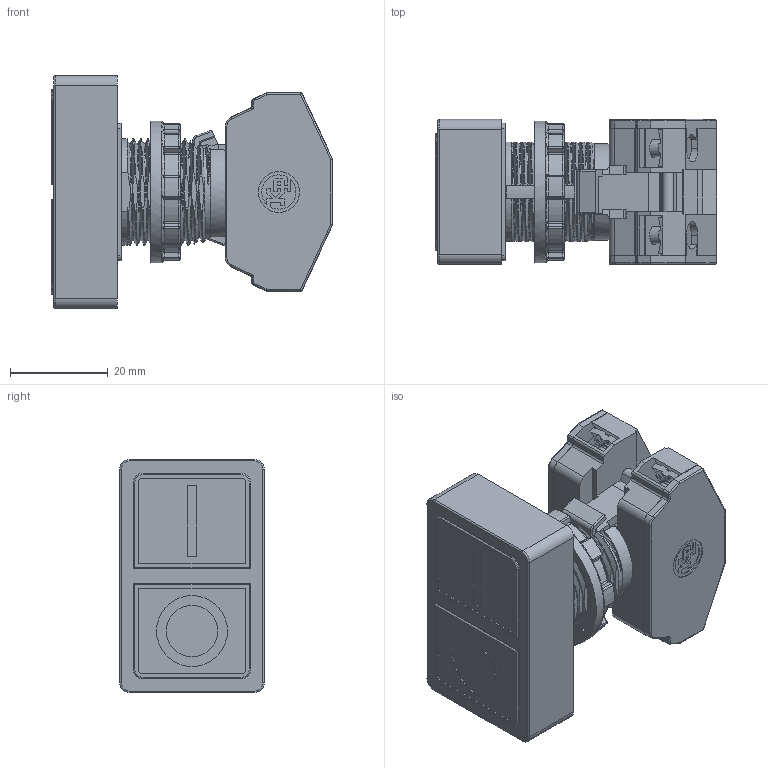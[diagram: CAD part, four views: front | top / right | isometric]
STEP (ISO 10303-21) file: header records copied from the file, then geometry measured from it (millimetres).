
FILE_DESCRIPTION(('Botao Compacto Duplo Quadrado 22 Gravacao ISO 1NA+1NF ou 2NA ou 2NF'),'2;1');
FILE_NAME('K:\Workfolder\Bibl\3DWeb\Serie\C9\kp_c9_c9dg_2Cont_step.stp','2011-04-02T15:00:38',('DIE'),('KAP'),'Autodesk Inventor 2011','Autodesk Inventor 2011','Direitos reservados. Proibido reproducao, cedencia ou revelacao de conteudo a terceiros, salvo com autorizacao. ');
FILE_SCHEMA(('AUTOMOTIVE_DESIGN { 1 0 10303 214 1 1 1 1 }'));
Length unit declared in the file: millimetre
Products named in the file (3): C9DG_2Cont; C9DG; C9AB_2Cont
Assembly tree (2 placements, depth 2):
  C9DG_2Cont
    C9DG
    C9AB_2Cont
Bounding box: 57.5 x 29.6 x 47.6 mm (x, y, z)
Volume: 42977.8 mm3; surface area: 18997.6 mm2
Topology: 3 solids, 9 shells, 1747 faces, 4779 edges, 2983 vertices
Faces by surface type: plane 949, cylinder 504, torus 127, bspline 86, sphere 49, cone 32
Full cylindrical faces by diameter (mm): 2.8 x4, 3 x4, 3.1 x4, 3.3 x4, 3.5 x4, 3.7 x4, 8.4 x1, 10.5 x1, 14.5 x1, 22.2 x1, 22.491 x3, 26 x1, 29 x1
Entity records: 61722 total; most frequent: CARTESIAN_POINT 16257, ORIENTED_EDGE 9324, DIRECTION 8933, EDGE_CURVE 4662, AXIS2_PLACEMENT_3D 2981, VECTOR 2971, LINE 2971, VERTEX_POINT 2962
